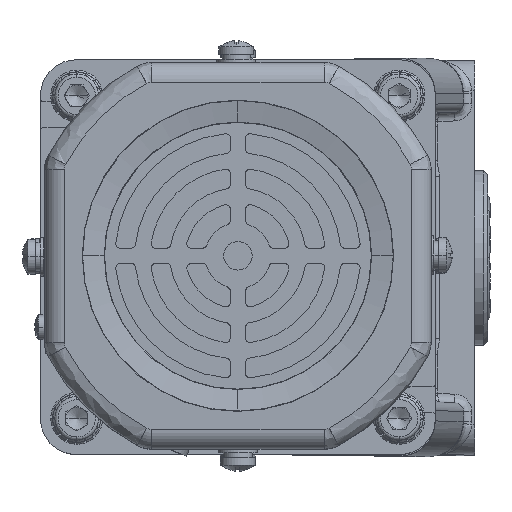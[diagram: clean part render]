
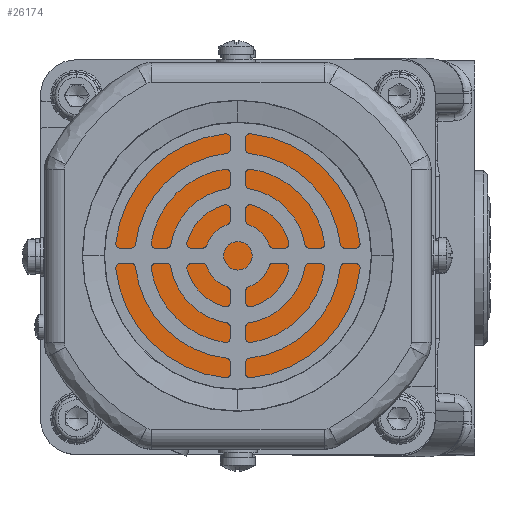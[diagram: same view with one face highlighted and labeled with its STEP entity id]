
A CAD part, top view. The second image highlights one B-rep face of the part: STEP entity #26174.
In plain terms, the highlighted planar face has unit normal (0, 0, 1) as drawn and (-1, 0, 0) by its records, which use the part's own axes.
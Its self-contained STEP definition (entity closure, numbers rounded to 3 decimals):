
#2477 = AXIS2_PLACEMENT_3D ( 'NONE', #18008, #40763, #93581 ) ;
#3762 = EDGE_CURVE ( 'NONE', #43920, #82977, #89492, .T. ) ;
#6126 = CARTESIAN_POINT ( 'NONE',  ( -89.541, -30.308, 221.306 ) ) ;
#8554 = CARTESIAN_POINT ( 'NONE',  ( -89.541, -30.308, 144.506 ) ) ;
#12809 =( BOUNDED_CURVE ( )  B_SPLINE_CURVE ( 3, ( #88946, #96541, #51369, #6126 ),
 .UNSPECIFIED., .F., .F. ) 
 B_SPLINE_CURVE_WITH_KNOTS ( ( 4, 4 ),
 ( 0., 1. ),
 .UNSPECIFIED. ) 
 CURVE ( )  GEOMETRIC_REPRESENTATION_ITEM ( )  RATIONAL_B_SPLINE_CURVE ( ( 1., 0.333, 0.333, 1. ) ) 
 REPRESENTATION_ITEM ( '' )  );
#16122 = CARTESIAN_POINT ( 'NONE',  ( -89.541, 46.492, 221.306 ) ) ;
#18008 = CARTESIAN_POINT ( 'NONE',  ( -89.541, 8.092, 221.306 ) ) ;
#26174 = ADVANCED_FACE ( 'NONE', ( #40983 ), #85982, .F. ) ;
#30948 = CARTESIAN_POINT ( 'NONE',  ( -89.541, -30.308, 221.306 ) ) ;
#31661 = CARTESIAN_POINT ( 'NONE',  ( -89.541, -30.308, 221.306 ) ) ;
#40763 = DIRECTION ( 'NONE',  ( 1., 0., 0. ) ) ;
#40983 = FACE_OUTER_BOUND ( 'NONE', #42010, .T. ) ;
#42010 = EDGE_LOOP ( 'NONE', ( #66803, #89069 ) ) ;
#43920 = VERTEX_POINT ( 'NONE', #31661 ) ;
#51369 = CARTESIAN_POINT ( 'NONE',  ( -89.541, -30.308, 298.106 ) ) ;
#61298 = CARTESIAN_POINT ( 'NONE',  ( -89.541, 46.492, 144.506 ) ) ;
#66803 = ORIENTED_EDGE ( 'NONE', *, *, #3762, .F. ) ;
#79321 = EDGE_CURVE ( 'NONE', #82977, #43920, #12809, .T. ) ;
#82977 = VERTEX_POINT ( 'NONE', #87435 ) ;
#85982 = PLANE ( 'NONE',  #2477 ) ;
#87435 = CARTESIAN_POINT ( 'NONE',  ( -89.541, 46.492, 221.306 ) ) ;
#88946 = CARTESIAN_POINT ( 'NONE',  ( -89.541, 46.492, 221.306 ) ) ;
#89069 = ORIENTED_EDGE ( 'NONE', *, *, #79321, .F. ) ;
#89492 =( BOUNDED_CURVE ( )  B_SPLINE_CURVE ( 3, ( #30948, #8554, #61298, #16122 ),
 .UNSPECIFIED., .F., .T. ) 
 B_SPLINE_CURVE_WITH_KNOTS ( ( 4, 4 ),
 ( 0., 1. ),
 .UNSPECIFIED. ) 
 CURVE ( )  GEOMETRIC_REPRESENTATION_ITEM ( )  RATIONAL_B_SPLINE_CURVE ( ( 1., 0.333, 0.333, 1. ) ) 
 REPRESENTATION_ITEM ( '' )  );
#93581 = DIRECTION ( 'NONE',  ( 0., 0., -1. ) ) ;
#96541 = CARTESIAN_POINT ( 'NONE',  ( -89.541, 46.492, 298.106 ) ) ;
